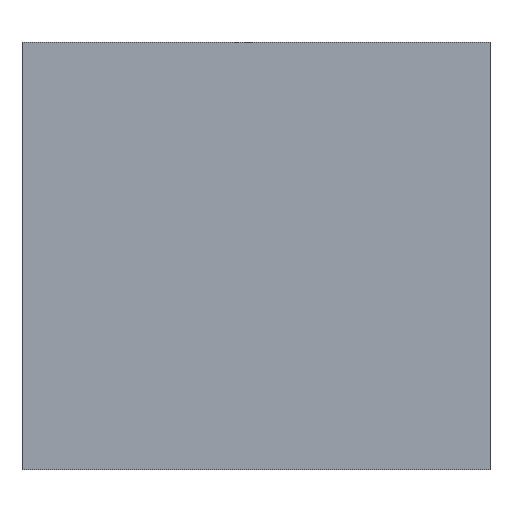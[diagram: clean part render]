
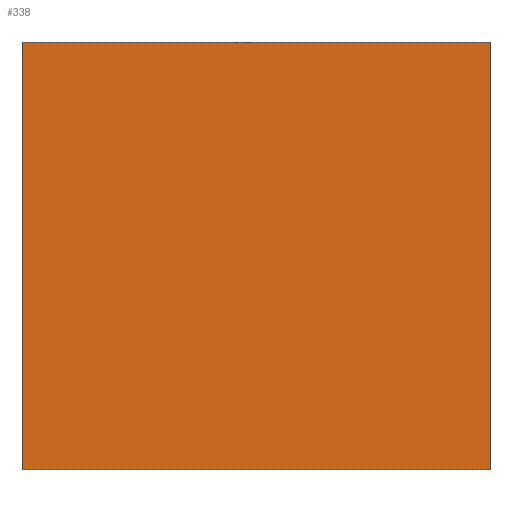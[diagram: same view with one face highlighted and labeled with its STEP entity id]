
A CAD part, top view. The second image highlights one B-rep face of the part: STEP entity #338.
In plain terms, the highlighted planar face has unit normal (0, 0, 1).
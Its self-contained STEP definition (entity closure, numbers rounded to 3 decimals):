
#24 = VERTEX_POINT('',#25);
#25 = CARTESIAN_POINT('',(-17.5,-16.,0.8));
#32 = PLANE('',#33);
#33 = AXIS2_PLACEMENT_3D('',#34,#35,#36);
#34 = CARTESIAN_POINT('',(-17.5,-16.,-0.8));
#35 = DIRECTION('',(1.,0.,0.));
#36 = DIRECTION('',(0.,0.,1.));
#44 = PLANE('',#45);
#45 = AXIS2_PLACEMENT_3D('',#46,#47,#48);
#46 = CARTESIAN_POINT('',(-17.5,-16.,-0.8));
#47 = DIRECTION('',(0.,1.,0.));
#48 = DIRECTION('',(0.,0.,1.));
#85 = VERTEX_POINT('',#86);
#86 = CARTESIAN_POINT('',(-17.5,16.,0.8));
#100 = PLANE('',#101);
#101 = AXIS2_PLACEMENT_3D('',#102,#103,#104);
#102 = CARTESIAN_POINT('',(-17.5,16.,-0.8));
#103 = DIRECTION('',(0.,1.,0.));
#104 = DIRECTION('',(0.,0.,1.));
#112 = EDGE_CURVE('',#24,#85,#113,.T.);
#113 = SURFACE_CURVE('',#114,(#118,#125),.PCURVE_S1.);
#114 = LINE('',#115,#116);
#115 = CARTESIAN_POINT('',(-17.5,-16.,0.8));
#116 = VECTOR('',#117,1.);
#117 = DIRECTION('',(0.,1.,0.));
#118 = PCURVE('',#32,#119);
#119 = DEFINITIONAL_REPRESENTATION('',(#120),#124);
#120 = LINE('',#121,#122);
#121 = CARTESIAN_POINT('',(1.6,0.));
#122 = VECTOR('',#123,1.);
#123 = DIRECTION('',(0.,-1.));
#124 = ( GEOMETRIC_REPRESENTATION_CONTEXT(2) 
PARAMETRIC_REPRESENTATION_CONTEXT() REPRESENTATION_CONTEXT('2D SPACE',''
  ) );
#125 = PCURVE('',#126,#131);
#126 = PLANE('',#127);
#127 = AXIS2_PLACEMENT_3D('',#128,#129,#130);
#128 = CARTESIAN_POINT('',(-17.5,-16.,0.8));
#129 = DIRECTION('',(0.,0.,1.));
#130 = DIRECTION('',(1.,0.,0.));
#131 = DEFINITIONAL_REPRESENTATION('',(#132),#136);
#132 = LINE('',#133,#134);
#133 = CARTESIAN_POINT('',(0.,0.));
#134 = VECTOR('',#135,1.);
#135 = DIRECTION('',(0.,1.));
#136 = ( GEOMETRIC_REPRESENTATION_CONTEXT(2) 
PARAMETRIC_REPRESENTATION_CONTEXT() REPRESENTATION_CONTEXT('2D SPACE',''
  ) );
#144 = VERTEX_POINT('',#145);
#145 = CARTESIAN_POINT('',(17.5,-16.,0.8));
#152 = PLANE('',#153);
#153 = AXIS2_PLACEMENT_3D('',#154,#155,#156);
#154 = CARTESIAN_POINT('',(17.5,-16.,-0.8));
#155 = DIRECTION('',(1.,0.,0.));
#156 = DIRECTION('',(0.,0.,1.));
#195 = VERTEX_POINT('',#196);
#196 = CARTESIAN_POINT('',(17.5,16.,0.8));
#217 = EDGE_CURVE('',#144,#195,#218,.T.);
#218 = SURFACE_CURVE('',#219,(#223,#230),.PCURVE_S1.);
#219 = LINE('',#220,#221);
#220 = CARTESIAN_POINT('',(17.5,-16.,0.8));
#221 = VECTOR('',#222,1.);
#222 = DIRECTION('',(0.,1.,0.));
#223 = PCURVE('',#152,#224);
#224 = DEFINITIONAL_REPRESENTATION('',(#225),#229);
#225 = LINE('',#226,#227);
#226 = CARTESIAN_POINT('',(1.6,0.));
#227 = VECTOR('',#228,1.);
#228 = DIRECTION('',(0.,-1.));
#229 = ( GEOMETRIC_REPRESENTATION_CONTEXT(2) 
PARAMETRIC_REPRESENTATION_CONTEXT() REPRESENTATION_CONTEXT('2D SPACE',''
  ) );
#230 = PCURVE('',#126,#231);
#231 = DEFINITIONAL_REPRESENTATION('',(#232),#236);
#232 = LINE('',#233,#234);
#233 = CARTESIAN_POINT('',(35.,0.));
#234 = VECTOR('',#235,1.);
#235 = DIRECTION('',(0.,1.));
#236 = ( GEOMETRIC_REPRESENTATION_CONTEXT(2) 
PARAMETRIC_REPRESENTATION_CONTEXT() REPRESENTATION_CONTEXT('2D SPACE',''
  ) );
#263 = EDGE_CURVE('',#24,#144,#264,.T.);
#264 = SURFACE_CURVE('',#265,(#269,#276),.PCURVE_S1.);
#265 = LINE('',#266,#267);
#266 = CARTESIAN_POINT('',(-17.5,-16.,0.8));
#267 = VECTOR('',#268,1.);
#268 = DIRECTION('',(1.,0.,0.));
#269 = PCURVE('',#44,#270);
#270 = DEFINITIONAL_REPRESENTATION('',(#271),#275);
#271 = LINE('',#272,#273);
#272 = CARTESIAN_POINT('',(1.6,0.));
#273 = VECTOR('',#274,1.);
#274 = DIRECTION('',(0.,1.));
#275 = ( GEOMETRIC_REPRESENTATION_CONTEXT(2) 
PARAMETRIC_REPRESENTATION_CONTEXT() REPRESENTATION_CONTEXT('2D SPACE',''
  ) );
#276 = PCURVE('',#126,#277);
#277 = DEFINITIONAL_REPRESENTATION('',(#278),#282);
#278 = LINE('',#279,#280);
#279 = CARTESIAN_POINT('',(0.,0.));
#280 = VECTOR('',#281,1.);
#281 = DIRECTION('',(1.,0.));
#282 = ( GEOMETRIC_REPRESENTATION_CONTEXT(2) 
PARAMETRIC_REPRESENTATION_CONTEXT() REPRESENTATION_CONTEXT('2D SPACE',''
  ) );
#310 = EDGE_CURVE('',#85,#195,#311,.T.);
#311 = SURFACE_CURVE('',#312,(#316,#323),.PCURVE_S1.);
#312 = LINE('',#313,#314);
#313 = CARTESIAN_POINT('',(-17.5,16.,0.8));
#314 = VECTOR('',#315,1.);
#315 = DIRECTION('',(1.,0.,0.));
#316 = PCURVE('',#100,#317);
#317 = DEFINITIONAL_REPRESENTATION('',(#318),#322);
#318 = LINE('',#319,#320);
#319 = CARTESIAN_POINT('',(1.6,0.));
#320 = VECTOR('',#321,1.);
#321 = DIRECTION('',(0.,1.));
#322 = ( GEOMETRIC_REPRESENTATION_CONTEXT(2) 
PARAMETRIC_REPRESENTATION_CONTEXT() REPRESENTATION_CONTEXT('2D SPACE',''
  ) );
#323 = PCURVE('',#126,#324);
#324 = DEFINITIONAL_REPRESENTATION('',(#325),#329);
#325 = LINE('',#326,#327);
#326 = CARTESIAN_POINT('',(0.,32.));
#327 = VECTOR('',#328,1.);
#328 = DIRECTION('',(1.,0.));
#329 = ( GEOMETRIC_REPRESENTATION_CONTEXT(2) 
PARAMETRIC_REPRESENTATION_CONTEXT() REPRESENTATION_CONTEXT('2D SPACE',''
  ) );
#338 = ADVANCED_FACE('',(#339),#126,.T.);
#339 = FACE_BOUND('',#340,.T.);
#340 = EDGE_LOOP('',(#341,#342,#343,#344));
#341 = ORIENTED_EDGE('',*,*,#112,.F.);
#342 = ORIENTED_EDGE('',*,*,#263,.T.);
#343 = ORIENTED_EDGE('',*,*,#217,.T.);
#344 = ORIENTED_EDGE('',*,*,#310,.F.);
